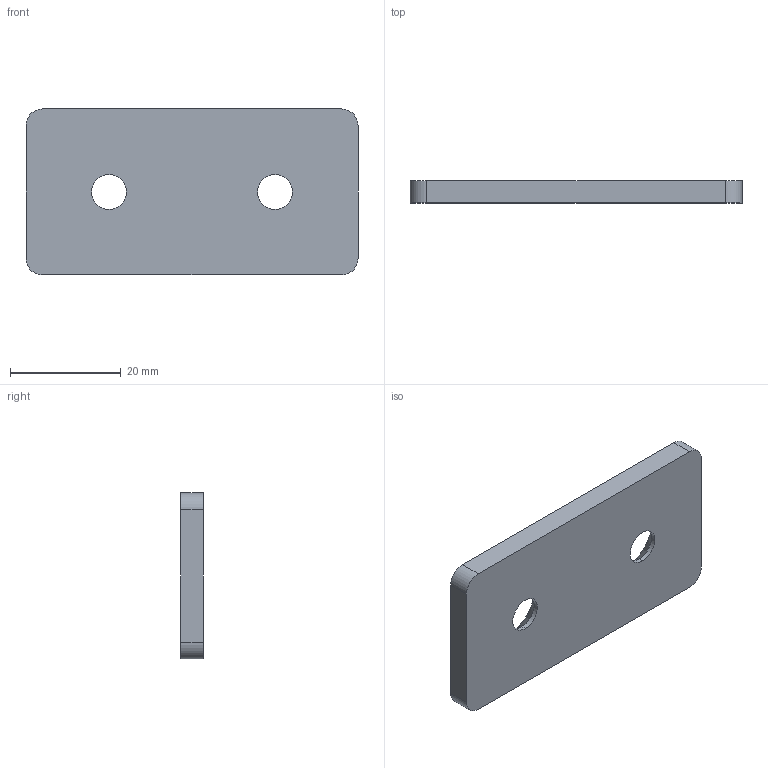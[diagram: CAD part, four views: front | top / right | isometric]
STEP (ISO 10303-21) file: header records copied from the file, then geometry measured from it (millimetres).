
FILE_DESCRIPTION (( 'STEP AP214' ), '1' );
FILE_NAME ('967-30-60-F-1-ZB.step', '2023-06-26T09:08:17', ( '' ), ( '' ), 'SwSTEP 2.0', 'SolidWorks 2022', '' );
FILE_SCHEMA (( 'AUTOMOTIVE_DESIGN' ));
Length unit declared in the file: millimetre
Products named in the file (1): 967-30-60-F-1-ZB
Bounding box: 60 x 4 x 30 mm (x, y, z)
Volume: 6657.9 mm3; surface area: 4270.4 mm2
Topology: 1 solids, 1 shells, 18 faces, 44 edges, 28 vertices
Faces by surface type: cylinder 8, plane 6, cone 4
Entity records: 578 total; most frequent: DIRECTION 102, CARTESIAN_POINT 91, ORIENTED_EDGE 88, EDGE_CURVE 44, AXIS2_PLACEMENT_3D 39, VERTEX_POINT 28, LINE 24, VECTOR 24
